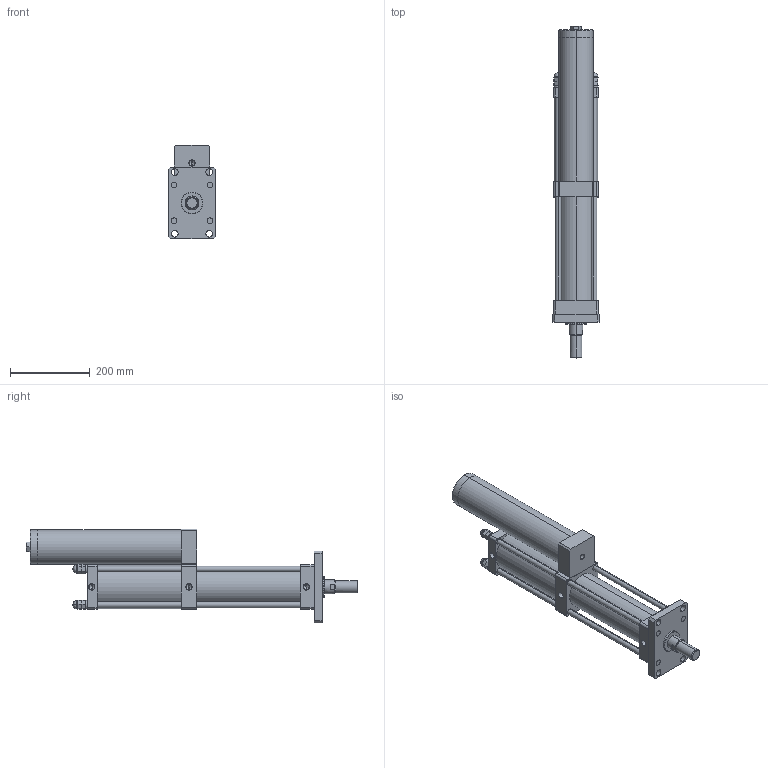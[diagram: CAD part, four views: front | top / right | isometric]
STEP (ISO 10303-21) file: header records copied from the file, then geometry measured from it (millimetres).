
FILE_DESCRIPTION (( 'STEP AP203' ), '1' );
FILE_NAME ('MPT-80-200-10-8T.STEP', '2016-03-11T03:37:55', ( 'WIN' ), ( '' ), 'SwSTEP 2.0', 'SolidWorks 2014', '' );
FILE_SCHEMA (( 'CONFIG_CONTROL_DESIGN' ));
Length unit declared in the file: millimetre
Products named in the file (1): MPT-80-200-10-8T
Bounding box: 118 x 835 x 235 mm (x, y, z)
Volume: 6347552.7 mm3; surface area: 763152.5 mm2
Topology: 20 solids, 20 shells, 400 faces, 968 edges, 562 vertices
Faces by surface type: plane 187, cylinder 90, torus 48, bspline 48, cone 27
Entity records: 12732 total; most frequent: CARTESIAN_POINT 3707, DIRECTION 1901, ORIENTED_EDGE 1804, EDGE_CURVE 902, AXIS2_PLACEMENT_3D 700, VERTEX_POINT 562, LINE 501, VECTOR 501
